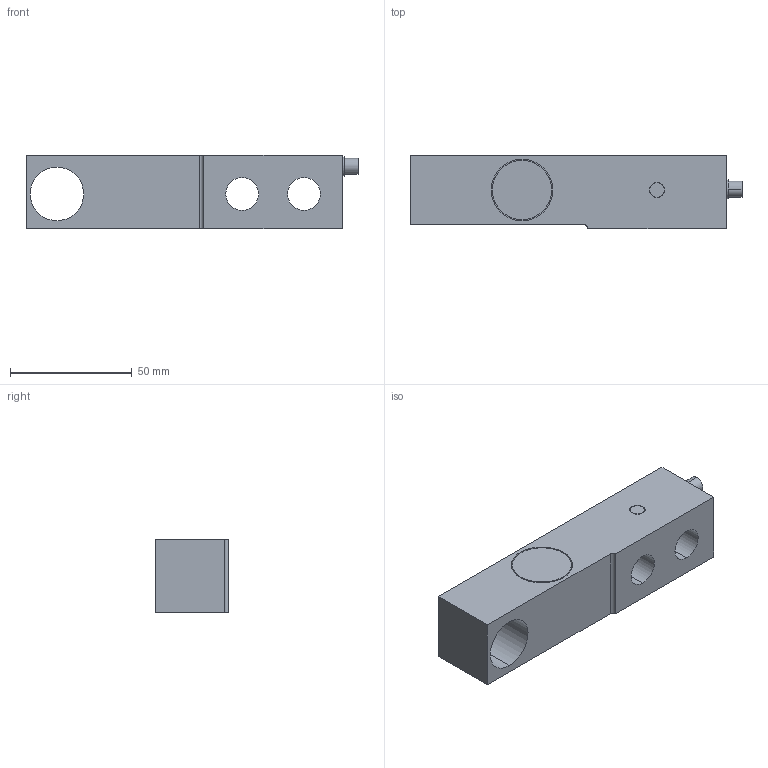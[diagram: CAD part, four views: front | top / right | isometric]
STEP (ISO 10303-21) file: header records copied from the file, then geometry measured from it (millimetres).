
FILE_DESCRIPTION (( 'STEP AP214' ), '1' );
FILE_NAME ('FINAL ASBY SS6100-1KLB.STEP', '2024-08-12T14:33:01', ( '' ), ( '' ), 'SwSTEP 2.0', 'SolidWorks 2008', '' );
FILE_SCHEMA (( 'AUTOMOTIVE_DESIGN' ));
Length unit declared in the file: millimetre
Products named in the file (1): FINAL ASBY SS6100-1KLB
Bounding box: 136.53 x 30.15 x 30.18 mm (x, y, z)
Volume: 95376.4 mm3; surface area: 21721.2 mm2
Topology: 1 solids, 1 shells, 56 faces, 129 edges, 78 vertices
Faces by surface type: cylinder 29, plane 15, cone 12
Entity records: 1600 total; most frequent: DIRECTION 297, CARTESIAN_POINT 256, ORIENTED_EDGE 242, EDGE_CURVE 121, AXIS2_PLACEMENT_3D 119, VERTEX_POINT 78, EDGE_LOOP 73, CIRCLE 62
